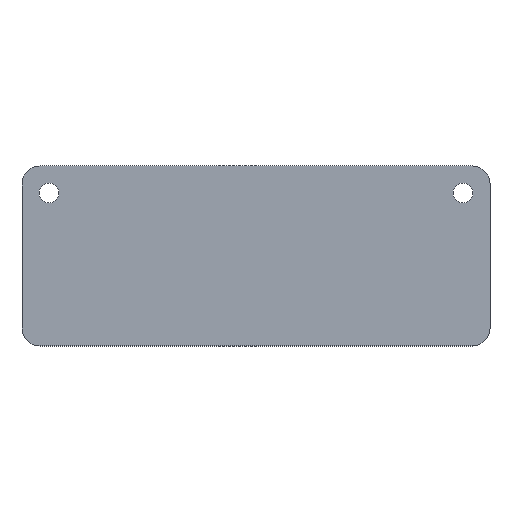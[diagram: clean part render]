
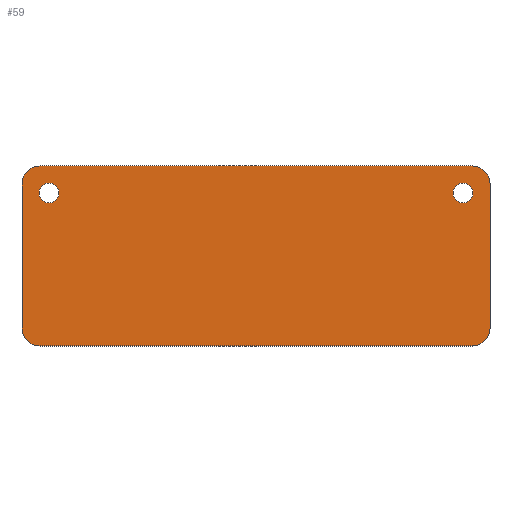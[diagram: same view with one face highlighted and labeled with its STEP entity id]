
A CAD part, top view. The second image highlights one B-rep face of the part: STEP entity #59.
In plain terms, the highlighted planar face has unit normal (0, 0, 1).
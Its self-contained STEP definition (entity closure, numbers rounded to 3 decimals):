
#21 = EDGE_CURVE('',#22,#24,#26,.T.);
#22 = VERTEX_POINT('',#23);
#23 = CARTESIAN_POINT('',(-26.,16.,-20.1));
#24 = VERTEX_POINT('',#25);
#25 = CARTESIAN_POINT('',(-24.,14.,-20.1));
#26 = CIRCLE('',#27,2.);
#27 = AXIS2_PLACEMENT_3D('',#28,#29,#30);
#28 = CARTESIAN_POINT('',(-24.,16.,-20.1));
#29 = DIRECTION('',(0.,0.,1.));
#30 = DIRECTION('',(1.,0.,0.));
#59 = ADVANCED_FACE('',(#60,#120,#131),#142,.T.);
#60 = FACE_BOUND('',#61,.T.);
#61 = EDGE_LOOP('',(#62,#63,#71,#80,#88,#97,#105,#114));
#62 = ORIENTED_EDGE('',*,*,#21,.T.);
#63 = ORIENTED_EDGE('',*,*,#64,.T.);
#64 = EDGE_CURVE('',#24,#65,#67,.T.);
#65 = VERTEX_POINT('',#66);
#66 = CARTESIAN_POINT('',(24.,14.,-20.1));
#67 = LINE('',#68,#69);
#68 = CARTESIAN_POINT('',(-24.,14.,-20.1));
#69 = VECTOR('',#70,1.);
#70 = DIRECTION('',(1.,0.,0.));
#71 = ORIENTED_EDGE('',*,*,#72,.T.);
#72 = EDGE_CURVE('',#65,#73,#75,.T.);
#73 = VERTEX_POINT('',#74);
#74 = CARTESIAN_POINT('',(26.,16.,-20.1));
#75 = CIRCLE('',#76,2.);
#76 = AXIS2_PLACEMENT_3D('',#77,#78,#79);
#77 = CARTESIAN_POINT('',(24.,16.,-20.1));
#78 = DIRECTION('',(0.,0.,1.));
#79 = DIRECTION('',(1.,0.,0.));
#80 = ORIENTED_EDGE('',*,*,#81,.T.);
#81 = EDGE_CURVE('',#73,#82,#84,.T.);
#82 = VERTEX_POINT('',#83);
#83 = CARTESIAN_POINT('',(26.,32.,-20.1));
#84 = LINE('',#85,#86);
#85 = CARTESIAN_POINT('',(26.,16.,-20.1));
#86 = VECTOR('',#87,1.);
#87 = DIRECTION('',(0.,1.,0.));
#88 = ORIENTED_EDGE('',*,*,#89,.T.);
#89 = EDGE_CURVE('',#82,#90,#92,.T.);
#90 = VERTEX_POINT('',#91);
#91 = CARTESIAN_POINT('',(24.,34.,-20.1));
#92 = CIRCLE('',#93,2.);
#93 = AXIS2_PLACEMENT_3D('',#94,#95,#96);
#94 = CARTESIAN_POINT('',(24.,32.,-20.1));
#95 = DIRECTION('',(0.,0.,1.));
#96 = DIRECTION('',(1.,0.,0.));
#97 = ORIENTED_EDGE('',*,*,#98,.F.);
#98 = EDGE_CURVE('',#99,#90,#101,.T.);
#99 = VERTEX_POINT('',#100);
#100 = CARTESIAN_POINT('',(-24.,34.,-20.1));
#101 = LINE('',#102,#103);
#102 = CARTESIAN_POINT('',(-24.,34.,-20.1));
#103 = VECTOR('',#104,1.);
#104 = DIRECTION('',(1.,0.,0.));
#105 = ORIENTED_EDGE('',*,*,#106,.T.);
#106 = EDGE_CURVE('',#99,#107,#109,.T.);
#107 = VERTEX_POINT('',#108);
#108 = CARTESIAN_POINT('',(-26.,32.,-20.1));
#109 = CIRCLE('',#110,2.);
#110 = AXIS2_PLACEMENT_3D('',#111,#112,#113);
#111 = CARTESIAN_POINT('',(-24.,32.,-20.1));
#112 = DIRECTION('',(0.,0.,1.));
#113 = DIRECTION('',(1.,0.,0.));
#114 = ORIENTED_EDGE('',*,*,#115,.F.);
#115 = EDGE_CURVE('',#22,#107,#116,.T.);
#116 = LINE('',#117,#118);
#117 = CARTESIAN_POINT('',(-26.,16.,-20.1));
#118 = VECTOR('',#119,1.);
#119 = DIRECTION('',(0.,1.,0.));
#120 = FACE_BOUND('',#121,.T.);
#121 = EDGE_LOOP('',(#122));
#122 = ORIENTED_EDGE('',*,*,#123,.F.);
#123 = EDGE_CURVE('',#124,#124,#126,.T.);
#124 = VERTEX_POINT('',#125);
#125 = CARTESIAN_POINT('',(-21.9,31.,-20.1));
#126 = CIRCLE('',#127,1.1);
#127 = AXIS2_PLACEMENT_3D('',#128,#129,#130);
#128 = CARTESIAN_POINT('',(-23.,31.,-20.1));
#129 = DIRECTION('',(0.,0.,1.));
#130 = DIRECTION('',(1.,0.,0.));
#131 = FACE_BOUND('',#132,.T.);
#132 = EDGE_LOOP('',(#133));
#133 = ORIENTED_EDGE('',*,*,#134,.F.);
#134 = EDGE_CURVE('',#135,#135,#137,.T.);
#135 = VERTEX_POINT('',#136);
#136 = CARTESIAN_POINT('',(24.1,31.,-20.1));
#137 = CIRCLE('',#138,1.1);
#138 = AXIS2_PLACEMENT_3D('',#139,#140,#141);
#139 = CARTESIAN_POINT('',(23.,31.,-20.1));
#140 = DIRECTION('',(0.,0.,1.));
#141 = DIRECTION('',(1.,0.,0.));
#142 = PLANE('',#143);
#143 = AXIS2_PLACEMENT_3D('',#144,#145,#146);
#144 = CARTESIAN_POINT('',(0.,24.,-20.1));
#145 = DIRECTION('',(0.,0.,1.));
#146 = DIRECTION('',(1.,0.,0.));
